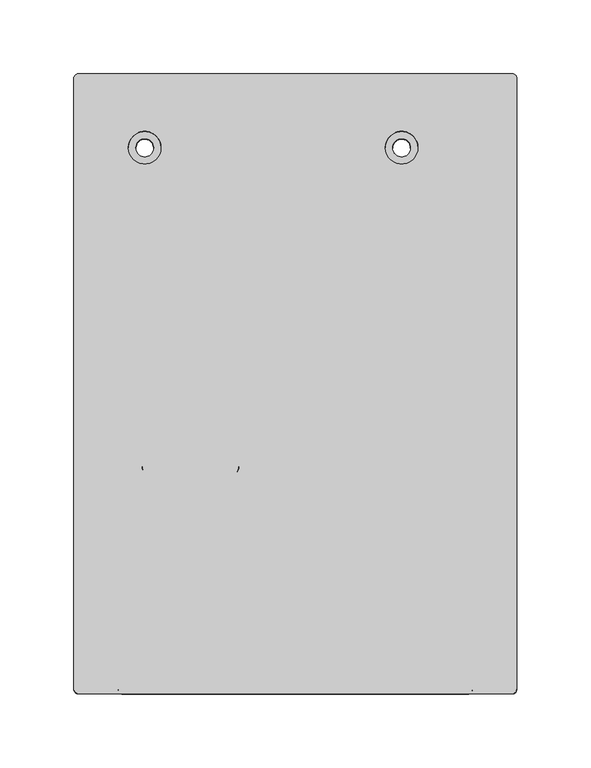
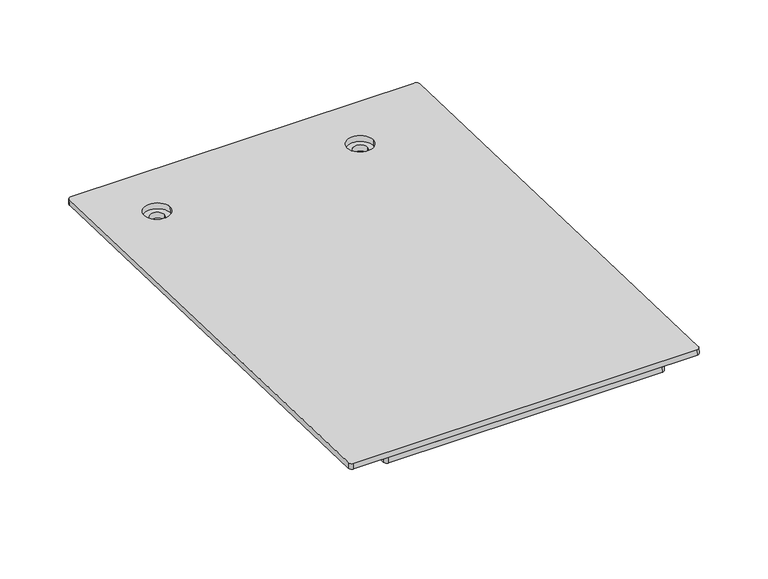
"""IFC4 building model written with IfcOpenShell, lengths in millimetres: proxy geometry, ML PhotonRoof Flat Anthracite Premium : 1X-L."""

from ifc_helpers import new_model, si_unit, point, frame, frame_2d, origin, place, context, project, spatial, polyline, circle_curve, trimmed, segment, composite_curve, outline, extrude, source, transform, mapped, element, save


def specialty_equipment_e27853ea(model_context):
    return source(origin(), model_context, "Body", "SweptSolid", [
        extrude(outline(composite_curve([segment(trimmed(circle_curve(frame_2d((238.0732143, -3.0)), 3.0), [point((238.0732143, 0.0))], [point((241.0732143, -3.0))], False, "CARTESIAN"), True, "CONTINUOUS"), segment(polyline([(241.0732143, -3.0), (241.0732143, -417.0)]), True, "CONTINUOUS"), segment(trimmed(circle_curve(frame_2d((238.0732143, -417.0)), 3.0), [point((241.0732143, -417.0))], [point((238.0732143, -420.0))], False, "CARTESIAN"), True, "CONTINUOUS"), segment(polyline([(238.0732143, -420.0), (-55.9267857, -420.0)]), True, "CONTINUOUS"), segment(trimmed(circle_curve(frame_2d((-55.9267857, -417.0)), 3.0), [point((-55.9267857, -420.0))], [point((-58.9267857, -417.0))], False, "CARTESIAN"), True, "CONTINUOUS"), segment(polyline([(-58.9267857, -417.0), (-58.9267857, -3.0)]), True, "CONTINUOUS"), segment(trimmed(circle_curve(frame_2d((-55.9267857, -3.0)), 3.0), [point((-58.9267857, -3.0))], [point((-55.9267857, 0.0))], False, "CARTESIAN"), True, "CONTINUOUS"), segment(polyline([(-55.9267857, 0.0), (238.0732143, 0.0)]), True, "CONTINUOUS")], self_intersect=False), holes=[composite_curve([segment(trimmed(circle_curve(frame_2d((-10.9267857, -50.0)), 11.0), [point((-21.9267857, -50.0))], [point((0.0732143, -50.0))], True, "CARTESIAN"), True, "CONTINUOUS"), segment(trimmed(circle_curve(frame_2d((-10.9267857, -50.0)), 11.0), [point((0.0732143, -50.0))], [point((-21.9267857, -50.0))], True, "CARTESIAN"), True, "CONTINUOUS")], self_intersect=False), composite_curve([segment(trimmed(circle_curve(frame_2d((163.0732143, -50.0)), 11.0), [point((152.0732143, -50.0))], [point((174.0732143, -50.0))], True, "CARTESIAN"), True, "CONTINUOUS"), segment(trimmed(circle_curve(frame_2d((163.0732143, -50.0)), 11.0), [point((174.0732143, -50.0))], [point((152.0732143, -50.0))], True, "CARTESIAN"), True, "CONTINUOUS")], self_intersect=False)]), frame((-91.0732143, 50.1323897, 3.4268794), z_axis=(0.0, 0.031413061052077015, 0.9995064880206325), x_axis=(1.0, 0.0, 0.0)), (0.0, 0.0, 1.0), 5.0),
        extrude(outline(composite_curve([segment(trimmed(circle_curve(frame_2d((327.0, -3.0)), 3.0), [point((327.0, 0.0))], [point((330.0, -3.0))], False, "CARTESIAN"), True, "CONTINUOUS"), segment(polyline([(330.0, -3.0), (330.0, -417.0)]), True, "CONTINUOUS"), segment(trimmed(circle_curve(frame_2d((327.0, -417.0)), 3.0), [point((330.0, -417.0))], [point((327.0, -420.0))], False, "CARTESIAN"), True, "CONTINUOUS"), segment(polyline([(327.0, -420.0), (93.0, -420.0)]), True, "CONTINUOUS"), segment(trimmed(circle_curve(frame_2d((93.0, -417.0)), 3.0), [point((93.0, -420.0))], [point((90.0, -417.0))], False, "CARTESIAN"), True, "CONTINUOUS"), segment(polyline([(90.0, -417.0), (90.0, -3.0)]), True, "CONTINUOUS"), segment(trimmed(circle_curve(frame_2d((93.0, -3.0)), 3.0), [point((90.0, -3.0))], [point((93.0, 0.0))], False, "CARTESIAN"), True, "CONTINUOUS"), segment(polyline([(93.0, 0.0), (327.0, 0.0)]), True, "CONTINUOUS")], self_intersect=False), holes=[composite_curve([segment(trimmed(circle_curve(frame_2d((108.0, -50.0)), 6.0), [point((102.0, -50.0))], [point((114.0, -50.0))], True, "CARTESIAN"), True, "CONTINUOUS"), segment(trimmed(circle_curve(frame_2d((108.0, -50.0)), 6.0), [point((114.0, -50.0))], [point((102.0, -50.0))], True, "CARTESIAN"), True, "CONTINUOUS")], self_intersect=False), composite_curve([segment(trimmed(circle_curve(frame_2d((282.0, -50.0)), 6.0), [point((276.0, -50.0))], [point((288.0, -50.0))], True, "CARTESIAN"), True, "CONTINUOUS"), segment(trimmed(circle_curve(frame_2d((282.0, -50.0)), 6.0), [point((288.0, -50.0))], [point((276.0, -50.0))], True, "CARTESIAN"), True, "CONTINUOUS")], self_intersect=False)]), frame((-210.0, 49.9753244, -1.5706531), z_axis=(0.0, 0.031413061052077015, 0.9995064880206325), x_axis=(1.0, 0.0, 0.0)), (0.0, 0.0, 1.0), 5.0),
        extrude(outline(composite_curve([segment(trimmed(circle_curve(frame_2d((57.0, -9.0)), 9.0), [point((57.0, 0.0))], [point((66.0, -9.0))], False, "CARTESIAN"), True, "CONTINUOUS"), segment(polyline([(66.0, -9.0), (66.0, -57.0)]), True, "CONTINUOUS"), segment(trimmed(circle_curve(frame_2d((57.0, -57.0)), 9.0), [point((66.0, -57.0))], [point((57.0, -66.0))], False, "CARTESIAN"), True, "CONTINUOUS"), segment(polyline([(57.0, -66.0), (9.0, -66.0)]), True, "CONTINUOUS"), segment(trimmed(circle_curve(frame_2d((9.0, -57.0)), 9.0), [point((9.0, -66.0))], [point((0.0, -57.0))], False, "CARTESIAN"), True, "CONTINUOUS"), segment(polyline([(0.0, -57.0), (0.0, -9.0)]), True, "CONTINUOUS"), segment(trimmed(circle_curve(frame_2d((9.0, -9.0)), 9.0), [point((0.0, -9.0))], [point((9.0, 0.0))], False, "CARTESIAN"), True, "CONTINUOUS"), segment(polyline([(9.0, 0.0), (57.0, 0.0)]), True, "CONTINUOUS")], self_intersect=False)), frame((-38.0, -224.5177145, -12.9536041), z_axis=(0.0, 0.031413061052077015, 0.9995064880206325), x_axis=(-1.0, 0.0, 0.0)), (0.0, 0.0, 1.0), 20.0),
        extrude(outline(polyline([(44.977792, -1.4135877), (44.9149658, -3.4126007), (27.9233555, -2.8785787), (27.3579204, -20.8696955), (24.359401, -20.7754563), (24.9876622, -0.7853265), (44.977792, -1.4135877)])), frame((-25.0, 0.0, 0.0), z_axis=(1.0, 0.0, 0.0), x_axis=(0.0, 1.0, 0.0)), (0.0, 0.0, 1.0), 50.0),
    ])


if __name__ == "__main__":
    model = new_model("IFC4")
    model_context = context("Model", 3, world=origin())
    ifc_project = project(units=[si_unit("LENGTHUNIT", "METRE", prefix="MILLI")], contexts=[model_context])
    site = spatial("IfcSite", under=ifc_project)
    building = spatial("IfcBuilding", under=site)
    placement = place(None, origin())
    specialty_equipment_shape = specialty_equipment_e27853ea(model_context)
    element("IfcBuildingElementProxy", 1, Name="ML PhotonRoof Flat Anthracite Premium : 1X-L", ObjectType="ML PhotonRoof Flat Anthracite Premium : 1X-L", at=placement, inside=building, context=model_context, shape_type="MappedRepresentation", body=[
        mapped(specialty_equipment_shape, transform((0.0, 0.0, 0.0), x_axis=(1.0, 0.0, 0.0), y_axis=(0.0, 1.0, 0.0), z_axis=(0.0, 0.0, 1.0))),
    ])
    save(model, "model.ifc")
